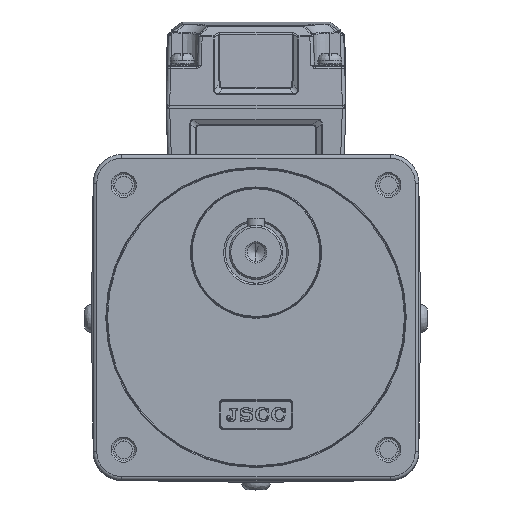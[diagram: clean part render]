
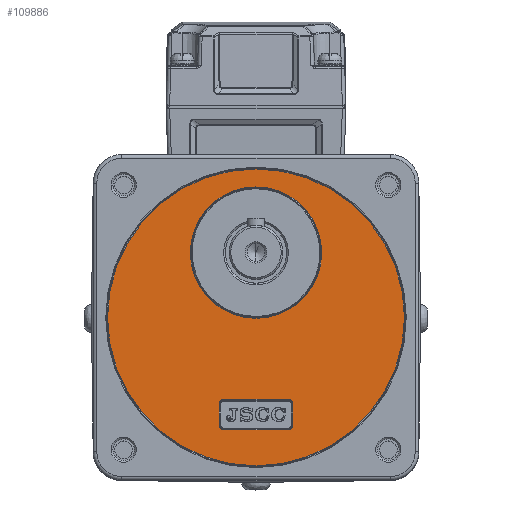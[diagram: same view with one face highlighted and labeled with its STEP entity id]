
A CAD part, top view. The second image highlights one B-rep face of the part: STEP entity #109886.
In plain terms, the highlighted planar face has unit normal (0, 0, 1) as drawn and (1, 0, 0) by its records, which use the part's own axes.
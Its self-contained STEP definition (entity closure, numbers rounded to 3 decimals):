
#109771=CARTESIAN_POINT('',(65.2,0.,0.));
#109772=DIRECTION('',(0.,0.,-1.));
#109773=DIRECTION('',(1.,-0.,0.));
#109774=AXIS2_PLACEMENT_3D('',#109771,#109773,#109772);
#109775=PLANE('',#109774);
#109776=CARTESIAN_POINT('',(65.2,0.,-41.25));
#109777=VERTEX_POINT('',#109776);
#109778=CARTESIAN_POINT('',(65.2,0.,41.25));
#109779=VERTEX_POINT('',#109778);
#109780=CARTESIAN_POINT('',(65.2,0.,0.));
#109781=DIRECTION('',(0.,0.,-1.));
#109782=DIRECTION('',(1.,0.,0.));
#109783=AXIS2_PLACEMENT_3D('',#109780,#109782,#109781);
#109784=CIRCLE('',#109783,41.25);
#109785=EDGE_CURVE('',#109777,#109779,#109784,.T.);
#109786=ORIENTED_EDGE('E1',*,*,#109785,.T.);
#109787=CARTESIAN_POINT('',(65.2,0.,0.));
#109788=DIRECTION('',(0.,0.,1.));
#109789=DIRECTION('',(1.,0.,0.));
#109790=AXIS2_PLACEMENT_3D('',#109787,#109789,#109788);
#109791=CIRCLE('',#109790,41.25);
#109792=EDGE_CURVE('',#109779,#109777,#109791,.T.);
#109793=ORIENTED_EDGE('E2',*,*,#109792,.T.);
#109794=EDGE_LOOP('',(#109786,#109793));
#109795=FACE_OUTER_BOUND('',#109794,.T.);
#109796=CARTESIAN_POINT('',(65.2,24.,10.25));
#109797=VERTEX_POINT('',#109796);
#109798=CARTESIAN_POINT('',(65.2,30.,10.25));
#109799=VERTEX_POINT('',#109798);
#109800=CARTESIAN_POINT('',(65.2,24.,10.25));
#109801=DIRECTION('',(0.,1.,0.));
#109802=VECTOR('',#109801,6.);
#109803=LINE('',#109800,#109802);
#109804=EDGE_CURVE('',#109797,#109799,#109803,.T.);
#109805=ORIENTED_EDGE('E3',*,*,#109804,.T.);
#109806=CARTESIAN_POINT('',(65.2,31.25,9.));
#109807=VERTEX_POINT('',#109806);
#109808=CARTESIAN_POINT('',(65.2,30.,9.));
#109809=DIRECTION('',(0.,0.,1.));
#109810=DIRECTION('',(-1.,0.,0.));
#109811=AXIS2_PLACEMENT_3D('',#109808,#109810,#109809);
#109812=CIRCLE('',#109811,1.25);
#109813=EDGE_CURVE('',#109799,#109807,#109812,.T.);
#109814=ORIENTED_EDGE('E4',*,*,#109813,.T.);
#109815=CARTESIAN_POINT('',(65.2,31.25,-9.));
#109816=VERTEX_POINT('',#109815);
#109817=CARTESIAN_POINT('',(65.2,31.25,9.));
#109818=DIRECTION('',(0.,0.,-1.));
#109819=VECTOR('',#109818,18.);
#109820=LINE('',#109817,#109819);
#109821=EDGE_CURVE('',#109807,#109816,#109820,.T.);
#109822=ORIENTED_EDGE('E5',*,*,#109821,.T.);
#109823=CARTESIAN_POINT('',(65.2,30.,-10.25));
#109824=VERTEX_POINT('',#109823);
#109825=CARTESIAN_POINT('',(65.2,30.,-9.));
#109826=DIRECTION('',(0.,1.,0.));
#109827=DIRECTION('',(-1.,0.,0.));
#109828=AXIS2_PLACEMENT_3D('',#109825,#109827,#109826);
#109829=CIRCLE('',#109828,1.25);
#109830=EDGE_CURVE('',#109816,#109824,#109829,.T.);
#109831=ORIENTED_EDGE('E6',*,*,#109830,.T.);
#109832=CARTESIAN_POINT('',(65.2,24.,-10.25));
#109833=VERTEX_POINT('',#109832);
#109834=CARTESIAN_POINT('',(65.2,30.,-10.25));
#109835=DIRECTION('',(0.,-1.,0.));
#109836=VECTOR('',#109835,6.);
#109837=LINE('',#109834,#109836);
#109838=EDGE_CURVE('',#109824,#109833,#109837,.T.);
#109839=ORIENTED_EDGE('E7',*,*,#109838,.T.);
#109840=CARTESIAN_POINT('',(65.2,22.75,-9.));
#109841=VERTEX_POINT('',#109840);
#109842=CARTESIAN_POINT('',(65.2,24.,-9.));
#109843=DIRECTION('',(0.,0.,-1.));
#109844=DIRECTION('',(-1.,0.,0.));
#109845=AXIS2_PLACEMENT_3D('',#109842,#109844,#109843);
#109846=CIRCLE('',#109845,1.25);
#109847=EDGE_CURVE('',#109833,#109841,#109846,.T.);
#109848=ORIENTED_EDGE('E8',*,*,#109847,.T.);
#109849=CARTESIAN_POINT('',(65.2,22.75,9.));
#109850=VERTEX_POINT('',#109849);
#109851=CARTESIAN_POINT('',(65.2,22.75,-9.));
#109852=DIRECTION('',(0.,0.,1.));
#109853=VECTOR('',#109852,18.);
#109854=LINE('',#109851,#109853);
#109855=EDGE_CURVE('',#109841,#109850,#109854,.T.);
#109856=ORIENTED_EDGE('E9',*,*,#109855,.T.);
#109857=CARTESIAN_POINT('',(65.2,24.,9.));
#109858=DIRECTION('',(0.,-1.,0.));
#109859=DIRECTION('',(-1.,0.,0.));
#109860=AXIS2_PLACEMENT_3D('',#109857,#109859,#109858);
#109861=CIRCLE('',#109860,1.25);
#109862=EDGE_CURVE('',#109850,#109797,#109861,.T.);
#109863=ORIENTED_EDGE('E10',*,*,#109862,.T.);
#109864=EDGE_LOOP('',(#109805,#109814,#109822,#109831,#109839,#109848,#109856,#109863));
#109865=FACE_BOUND('',#109864,.T.);
#109866=CARTESIAN_POINT('',(65.2,-18.,18.25));
#109867=VERTEX_POINT('',#109866);
#109868=CARTESIAN_POINT('',(65.2,-18.,-18.25));
#109869=VERTEX_POINT('',#109868);
#109870=CARTESIAN_POINT('',(65.2,-18.,0.));
#109871=DIRECTION('',(0.,0.,1.));
#109872=DIRECTION('',(-1.,0.,0.));
#109873=AXIS2_PLACEMENT_3D('',#109870,#109872,#109871);
#109874=CIRCLE('',#109873,18.25);
#109875=EDGE_CURVE('',#109867,#109869,#109874,.T.);
#109876=ORIENTED_EDGE('E11',*,*,#109875,.T.);
#109877=CARTESIAN_POINT('',(65.2,-18.,0.));
#109878=DIRECTION('',(0.,0.,-1.));
#109879=DIRECTION('',(-1.,0.,0.));
#109880=AXIS2_PLACEMENT_3D('',#109877,#109879,#109878);
#109881=CIRCLE('',#109880,18.25);
#109882=EDGE_CURVE('',#109869,#109867,#109881,.T.);
#109883=ORIENTED_EDGE('E12',*,*,#109882,.T.);
#109884=EDGE_LOOP('',(#109876,#109883));
#109885=FACE_BOUND('',#109884,.T.);
#109886=ADVANCED_FACE('F1',(#109795,#109865,#109885),#109775,.T.);
